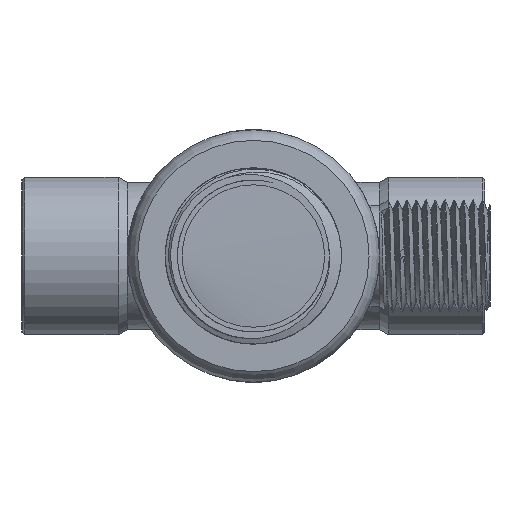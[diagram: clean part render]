
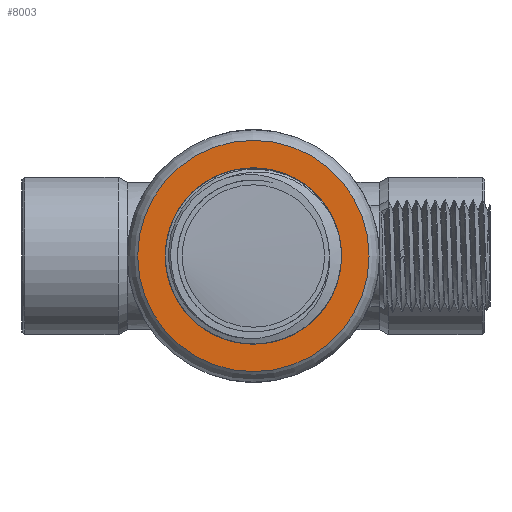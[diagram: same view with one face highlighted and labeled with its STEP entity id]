
A CAD part, left-side view. The second image highlights one B-rep face of the part: STEP entity #8003.
In plain terms, the highlighted planar face has unit normal (-1, 0, 0).
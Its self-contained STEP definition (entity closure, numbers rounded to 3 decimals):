
#141=PLANE('',#8610);
#258=FACE_BOUND('',#1374,.T.);
#264=CIRCLE('',#8057,16.75);
#265=CIRCLE('',#8058,16.75);
#317=CIRCLE('',#8299,22.);
#318=CIRCLE('',#8300,22.);
#885=FACE_OUTER_BOUND('',#1373,.T.);
#1373=EDGE_LOOP('',(#7291,#7292));
#1374=EDGE_LOOP('',(#7293,#7294));
#2957=VERTEX_POINT('',#11258);
#2958=VERTEX_POINT('',#11260);
#3338=VERTEX_POINT('',#24629);
#3339=VERTEX_POINT('',#24631);
#3766=EDGE_CURVE('',#2957,#2958,#264,.T.);
#3767=EDGE_CURVE('',#2958,#2957,#265,.T.);
#4334=EDGE_CURVE('',#3339,#3338,#317,.T.);
#4335=EDGE_CURVE('',#3338,#3339,#318,.T.);
#7291=ORIENTED_EDGE('',*,*,#4334,.T.);
#7292=ORIENTED_EDGE('',*,*,#4335,.T.);
#7293=ORIENTED_EDGE('',*,*,#3767,.F.);
#7294=ORIENTED_EDGE('',*,*,#3766,.F.);
#8003=ADVANCED_FACE('',(#885,#258),#141,.T.);
#8057=AXIS2_PLACEMENT_3D('',#11261,#8719,#8720);
#8058=AXIS2_PLACEMENT_3D('',#11262,#8721,#8722);
#8299=AXIS2_PLACEMENT_3D('',#24632,#9377,#9378);
#8300=AXIS2_PLACEMENT_3D('',#24633,#9379,#9380);
#8610=AXIS2_PLACEMENT_3D('',#35314,#10264,#10265);
#8719=DIRECTION('center_axis',(-1.,0.,0.));
#8720=DIRECTION('ref_axis',(0.,0.,1.));
#8721=DIRECTION('center_axis',(-1.,0.,0.));
#8722=DIRECTION('ref_axis',(0.,0.,1.));
#9377=DIRECTION('center_axis',(-1.,0.,0.));
#9378=DIRECTION('ref_axis',(0.,0.,1.));
#9379=DIRECTION('center_axis',(-1.,0.,0.));
#9380=DIRECTION('ref_axis',(0.,0.,1.));
#10264=DIRECTION('center_axis',(-1.,0.,0.));
#10265=DIRECTION('ref_axis',(0.,0.,1.));
#11258=CARTESIAN_POINT('',(-202.5,16.75,0.));
#11260=CARTESIAN_POINT('',(-202.5,-16.75,0.));
#11261=CARTESIAN_POINT('Origin',(-202.5,0.,
0.));
#11262=CARTESIAN_POINT('Origin',(-202.5,0.,
0.));
#24629=CARTESIAN_POINT('',(-202.5,0.,22.));
#24631=CARTESIAN_POINT('',(-202.5,-22.,0.));
#24632=CARTESIAN_POINT('Origin',(-202.5,0.,
0.));
#24633=CARTESIAN_POINT('Origin',(-202.5,0.,
0.));
#35314=CARTESIAN_POINT('Origin',(-202.5,-16.75,0.));
